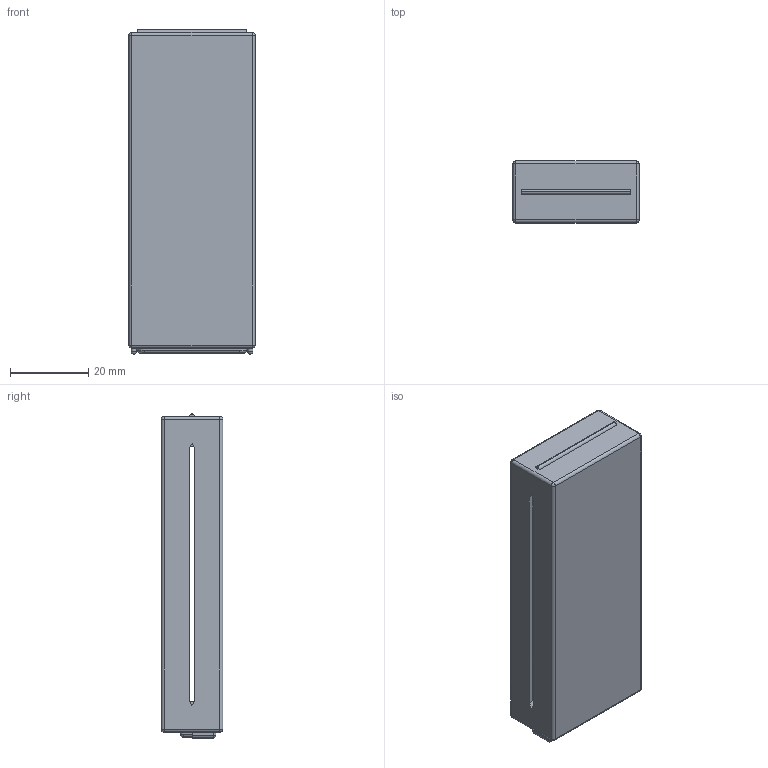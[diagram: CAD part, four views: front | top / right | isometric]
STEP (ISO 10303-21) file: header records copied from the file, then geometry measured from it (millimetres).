
FILE_DESCRIPTION (( 'STEP AP214' ), '1' );
FILE_NAME ('0431164051.STEP', '2018-12-18T20:37:29', ( '' ), ( '' ), 'SwSTEP 2.0', 'SolidWorks 2018', '' );
FILE_SCHEMA (( 'AUTOMOTIVE_DESIGN' ));
Length unit declared in the file: inch
Products named in the file (1): 0431164051
Bounding box: 32.31 x 15.8 x 82.97 mm (x, y, z)
Volume: 32502.7 mm3; surface area: 26809.4 mm2
Topology: 4 solids, 4 shells, 135 faces, 327 edges, 188 vertices
Faces by surface type: plane 69, cylinder 48, sphere 16, torus 2
Entity records: 5589 total; most frequent: DIRECTION 671, CARTESIAN_POINT 647, ORIENTED_EDGE 622, EDGE_CURVE 311, AXIS2_PLACEMENT_3D 228, LINE 215, VECTOR 215, VERTEX_POINT 188
